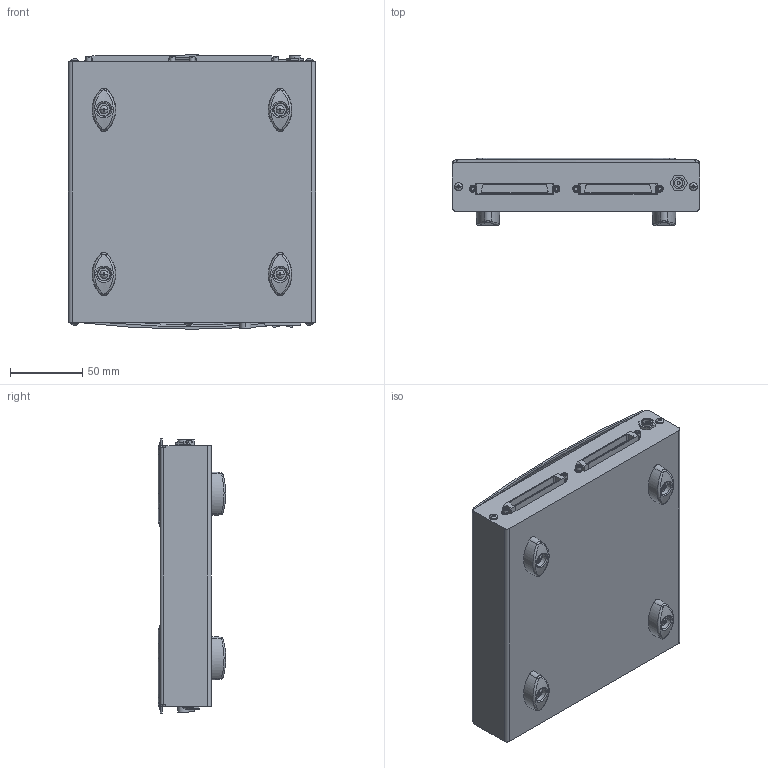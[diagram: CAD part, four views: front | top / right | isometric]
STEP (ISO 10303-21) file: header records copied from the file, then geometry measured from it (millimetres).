
FILE_DESCRIPTION((''),'2;1');
FILE_NAME('CU_USB_MASS_TERM','2007-08-27T',('jpearson'),(''),'PRO/ENGINEER BY PARAMETRIC TECHNOLOGY CORPORATION, 2006080','PRO/ENGINEER BY PARAMETRIC TECHNOLOGY CORPORATION, 2006080','');
FILE_SCHEMA(('CONFIG_CONTROL_DESIGN'));
Products named in the file (1): CU_USB_MASS_TERM
Bounding box: 170.94 x 46.74 x 189.87 mm (x, y, z)
Volume: 246100.5 mm3; surface area: 193872.1 mm2
Topology: 10 solids, 11 shells, 2180 faces, 5296 edges, 3271 vertices
Faces by surface type: plane 894, cylinder 858, bspline 260, cone 62, torus 52, revolution 24, sphere 22, extrusion 8
Entity records: 96798 total; most frequent: CARTESIAN_POINT 46668, DIRECTION 10310, ORIENTED_EDGE 10224, EDGE_CURVE 5112, AXIS2_PLACEMENT_3D 3934, VERTEX_POINT 3442, EDGE_LOOP 2559, VECTOR 2418
